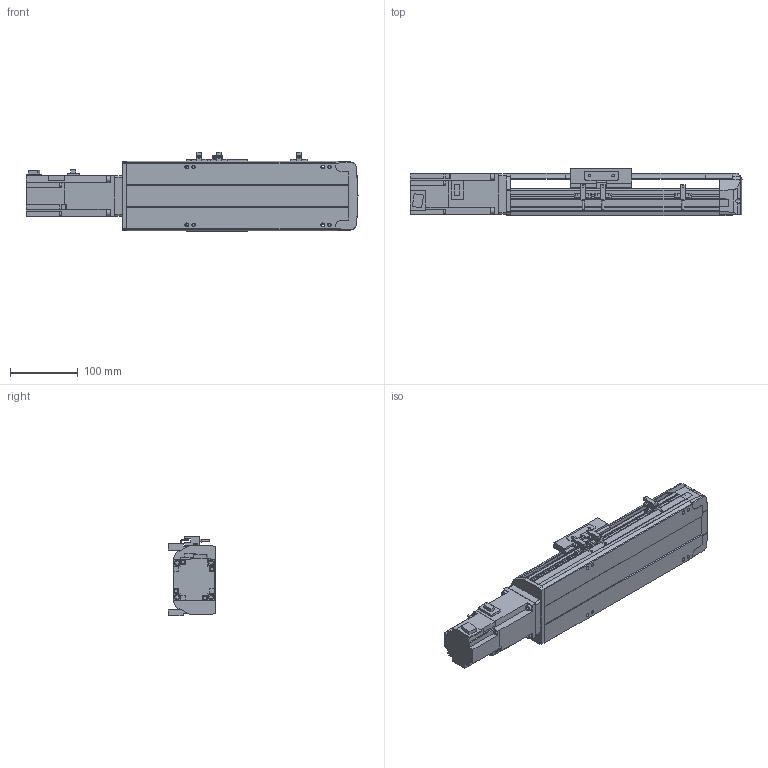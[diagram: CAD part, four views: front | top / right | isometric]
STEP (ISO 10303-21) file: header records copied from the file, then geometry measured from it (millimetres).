
FILE_DESCRIPTION(/* description */ ('STEP AP214'),/* implementation_level */ '2;1');
FILE_NAME(/* name */ 'PSS120-L10-S100-BC-T40-C1-N(0)',/* time_stamp */ '2022-06-02T02:32:43+02:00',/* author */ ('License CC BY-ND 4.0'),/* organization */ ('CADENAS'),/* preprocessor_version */ 'ST-DEVELOPER v18.102',/* originating_system */ 'PARTsolutions',/* authorisation */ ' ');
FILE_SCHEMA (('AUTOMOTIVE_DESIGN {1 0 10303 214 3 1 1}'));
Length unit declared in the file: millimetre
Products named in the file (8): PSS120-L10-S100-BC-T40-C1-N(0); PSS120-S100-BC-N_S; T40-p1; PSS120BC-N_h; PSS120-N_sensor; PSS120-BC-C1-N_sl; PSS120-N_Q; PSS120-S100-BC-C1-N_body
Assembly tree (9 placements, depth 2):
  PSS120-L10-S100-BC-T40-C1-N(0)
    PSS120-S100-BC-N_S
    T40-p1
    PSS120BC-N_h
    PSS120-N_sensor  x3
    PSS120-BC-C1-N_sl
    PSS120-N_Q
    PSS120-S100-BC-C1-N_body
Bounding box: 488.7 x 70 x 117.7 mm (x, y, z)
Volume: 1676893 mm3; surface area: 315531.3 mm2
Topology: 9 solids, 9 shells, 769 faces, 2064 edges, 1370 vertices
Faces by surface type: plane 535, cylinder 218, cone 16
Full cylindrical faces by diameter (mm): 2.8 x3, 4 x4, 4.134 x8, 4.2 x4, 4.4 x2, 4.5 x4, 4.6 x3, 4.917 x4, 5 x6, 5.5 x11, 7 x2, 8 x8, 8.5 x8, 14 x1, 28 x1, 32 x1, 50 x1
Entity records: 20608 total; most frequent: CARTESIAN_POINT 3694, DIRECTION 3451, ORIENTED_EDGE 3370, EDGE_CURVE 1685, LINE 1213, VECTOR 1213, VERTEX_POINT 1166, AXIS2_PLACEMENT_3D 1119
